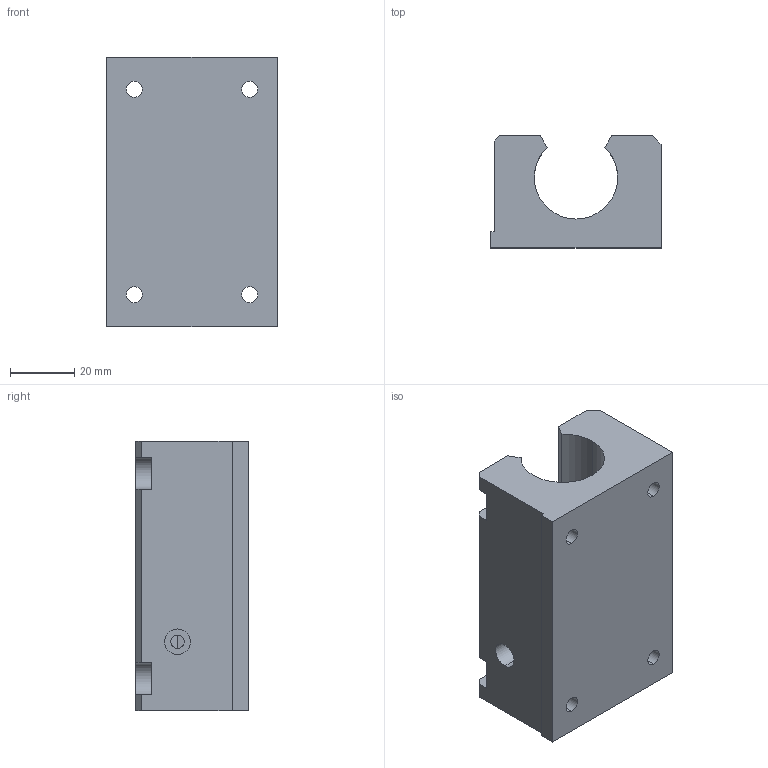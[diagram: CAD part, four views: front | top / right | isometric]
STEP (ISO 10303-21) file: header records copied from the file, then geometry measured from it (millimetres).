
FILE_DESCRIPTION (( 'STEP AP214' ), '1' );
FILE_NAME ('KTGO87-I-16.step', '2020-03-04T13:31:24', ( '' ), ( '' ), 'SwSTEP 2.0', 'SolidWorks 2019', '' );
FILE_SCHEMA (( 'AUTOMOTIVE_DESIGN' ));
Length unit declared in the file: millimetre
Products named in the file (1): KTGO87-I-16
Bounding box: 53 x 35 x 84 mm (x, y, z)
Volume: 99781.8 mm3; surface area: 24100.3 mm2
Topology: 1 solids, 1 shells, 60 faces, 166 edges, 108 vertices
Faces by surface type: plane 31, cylinder 27, cone 2
Entity records: 2288 total; most frequent: CARTESIAN_POINT 505, ORIENTED_EDGE 332, DIRECTION 330, EDGE_CURVE 166, VECTOR 112, LINE 112, AXIS2_PLACEMENT_3D 109, VERTEX_POINT 108
